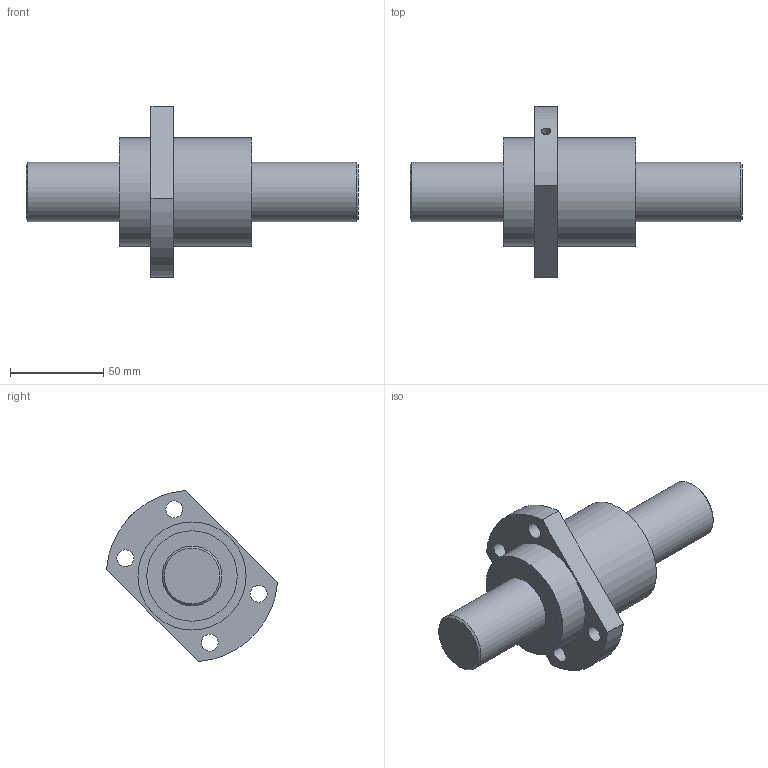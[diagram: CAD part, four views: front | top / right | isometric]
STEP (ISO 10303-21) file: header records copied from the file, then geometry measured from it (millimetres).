
FILE_DESCRIPTION (( 'STEP AP203' ), '1' );
FILE_NAME ('SFYA3264-1.6.STEP', '2023-05-25T05:12:51', ( '' ), ( '' ), 'SwSTEP 2.0', 'SolidWorks 2022', '' );
FILE_SCHEMA (( 'CONFIG_CONTROL_DESIGN' ));
Length unit declared in the file: millimetre
Products named in the file (1): SFYA3264-1.6
Bounding box: 178 x 91.74 x 91.74 mm (x, y, z)
Volume: 299537.2 mm3; surface area: 59648.7 mm2
Topology: 4 solids, 4 shells, 51 faces, 95 edges, 64 vertices
Faces by surface type: cylinder 26, plane 22, cone 3
Full cylindrical faces by diameter (mm): 4 x1, 5 x1, 9 x4, 32 x4, 42.7 x4, 48.5 x4, 50 x4, 58 x2
Entity records: 1321 total; most frequent: CARTESIAN_POINT 286, DIRECTION 216, ORIENTED_EDGE 124, EDGE_LOOP 106, AXIS2_PLACEMENT_3D 104, FACE_OUTER_BOUND 75, EDGE_CURVE 62, VERTEX_POINT 58
